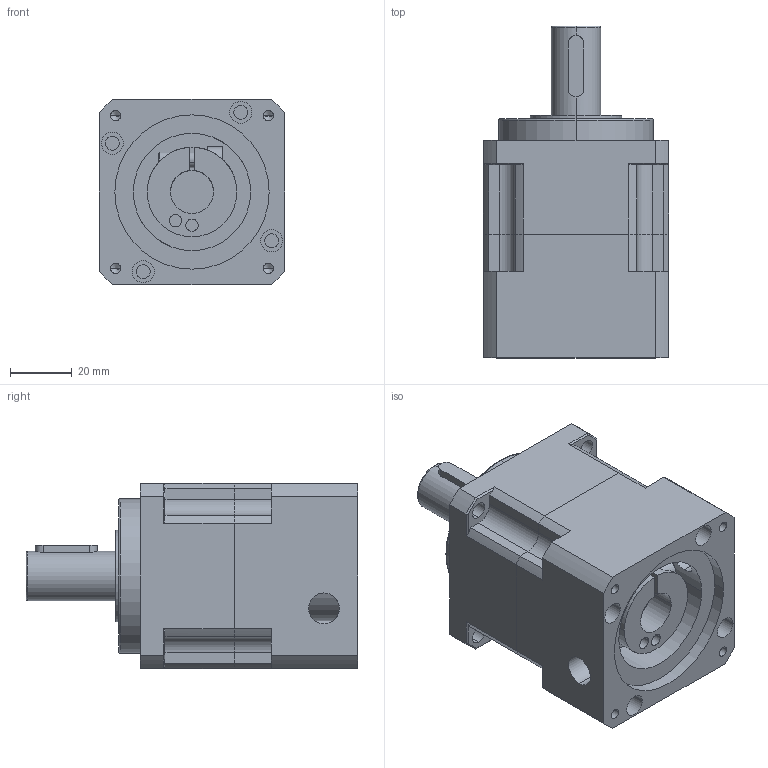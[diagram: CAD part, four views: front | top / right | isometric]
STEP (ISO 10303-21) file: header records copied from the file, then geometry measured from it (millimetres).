
FILE_DESCRIPTION (( 'STEP AP214' ), '1' );
FILE_NAME ('PB60-L1.STEP', '2019-01-05T02:52:25', ( '微软用户' ), ( '微软中国' ), 'SwSTEP 2.0', 'SolidWorks 2014', '' );
FILE_SCHEMA (( 'AUTOMOTIVE_DESIGN' ));
Length unit declared in the file: millimetre
Products named in the file (5): PB60-L1; PB60俋倛芞奻裔啣_72T; PB60俋倛芞狟裔啣; 邧埴瑩 5x5x20; 囀鞠褒蹟佪-M5℅16
Assembly tree (4 placements, depth 2):
  PB60-L1
    PB60俋倛芞奻裔啣_72T
    PB60俋倛芞狟裔啣
    邧埴瑩 5x5x20
    囀鞠褒蹟佪-M5℅16
Bounding box: 60 x 107.5 x 60 mm (x, y, z)
Volume: 224888.9 mm3; surface area: 44831.6 mm2
Topology: 4 solids, 4 shells, 252 faces, 628 edges, 394 vertices
Faces by surface type: cylinder 126, plane 90, cone 28, torus 8
Entity records: 8082 total; most frequent: CARTESIAN_POINT 1634, DIRECTION 1370, ORIENTED_EDGE 1220, EDGE_CURVE 610, AXIS2_PLACEMENT_3D 530, VERTEX_POINT 394, VECTOR 310, LINE 310
